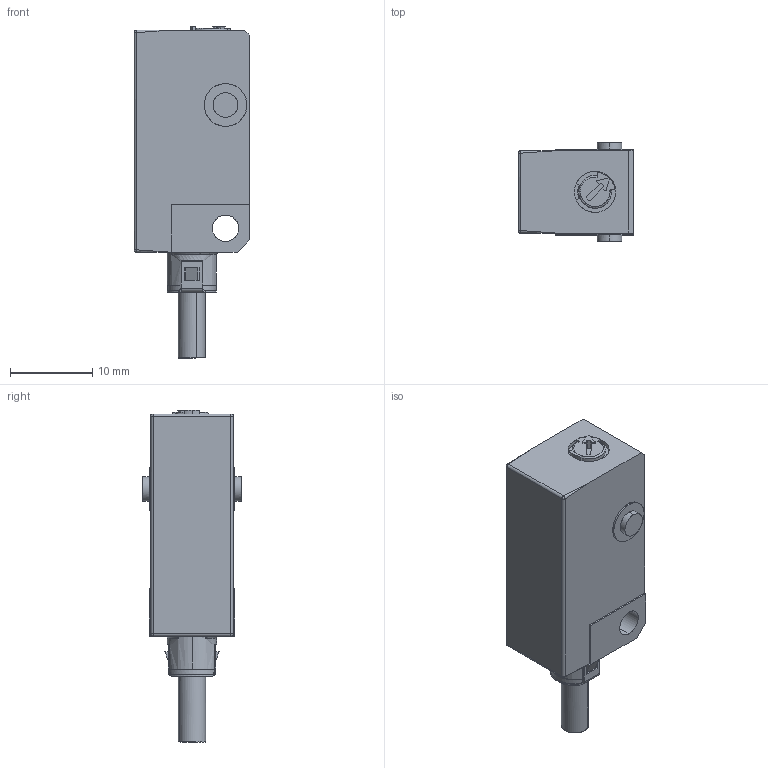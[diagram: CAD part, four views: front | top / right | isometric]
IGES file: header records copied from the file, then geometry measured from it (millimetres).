
Start section: Comment
Global section: file name: FZDK 10.igs; native system:  By Spatial Corp.; preprocessor: XPlus GENERIC/IGES 3.0; author: Author; organization: Title; date: 20060329.094124; units: inch
Bounding box: 14.05 x 12 x 40.35 mm (x, y, z)
Surface area: 1892.6 mm2 (no closed solid volume)
Topology: 0 solids, 0 shells, 148 faces, 770 edges, 761 vertices
Faces by surface type: bspline 148
